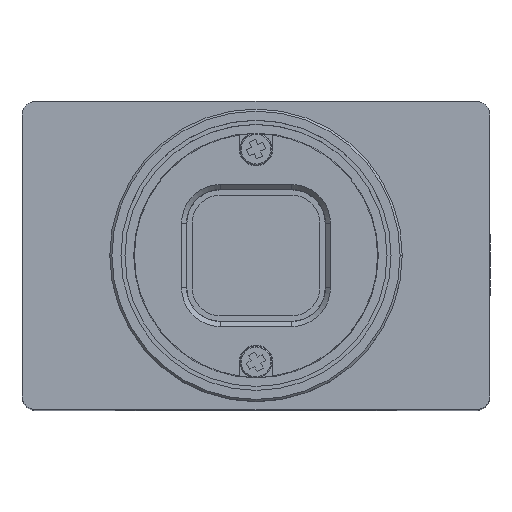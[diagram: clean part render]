
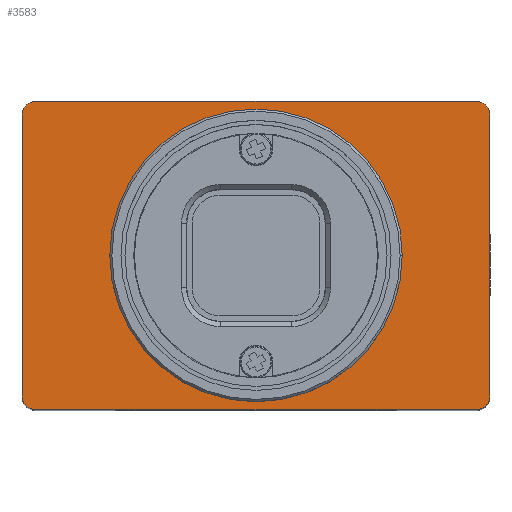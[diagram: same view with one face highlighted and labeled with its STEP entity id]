
A CAD part, top view. The second image highlights one B-rep face of the part: STEP entity #3583.
In plain terms, the highlighted planar face has unit normal (0, 0, 1).
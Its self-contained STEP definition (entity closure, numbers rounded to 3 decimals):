
#1052 = DIRECTION ( 'NONE',  ( 0., -1., 0. ) ) ;
#1066 = CARTESIAN_POINT ( 'NONE',  ( -22., -13.2, 0. ) ) ;
#1116 = ORIENTED_EDGE ( 'NONE', *, *, #11700, .T. ) ;
#1173 = CARTESIAN_POINT ( 'NONE',  ( 20.7, 14.5, 0. ) ) ;
#1494 = DIRECTION ( 'NONE',  ( 0., 1., 0. ) ) ;
#1615 = CARTESIAN_POINT ( 'NONE',  ( 22., -13.2, 0. ) ) ;
#1828 = DIRECTION ( 'NONE',  ( -1., 0., 0. ) ) ;
#1841 = DIRECTION ( 'NONE',  ( 0., 0., 1. ) ) ;
#1859 = CARTESIAN_POINT ( 'NONE',  ( -20.7, -13.2, 0. ) ) ;
#1942 = VERTEX_POINT ( 'NONE', #10193 ) ;
#2018 = CIRCLE ( 'NONE', #10441, 1.3 ) ;
#2089 = DIRECTION ( 'NONE',  ( -1., 0., 0. ) ) ;
#2220 = CARTESIAN_POINT ( 'NONE',  ( -20.7, 13.2, 0. ) ) ;
#2251 = DIRECTION ( 'NONE',  ( 0., 0., 1. ) ) ;
#2451 = VERTEX_POINT ( 'NONE', #11175 ) ;
#3185 = DIRECTION ( 'NONE',  ( -1., 0., 0. ) ) ;
#3241 = CARTESIAN_POINT ( 'NONE',  ( -20.7, 14.5, 0. ) ) ;
#3377 = VERTEX_POINT ( 'NONE', #6413 ) ;
#3583 = ADVANCED_FACE ( 'NONE', ( #5495, #8470 ), #4332, .F. ) ;
#3585 = VECTOR ( 'NONE', #13484, 1000. ) ;
#3895 = EDGE_CURVE ( 'NONE', #5267, #6593, #12211, .T. ) ;
#3943 = EDGE_CURVE ( 'NONE', #12235, #5464, #9103, .T. ) ;
#4013 = VERTEX_POINT ( 'NONE', #1173 ) ;
#4200 = DIRECTION ( 'NONE',  ( -1., 0., 0. ) ) ;
#4209 = DIRECTION ( 'NONE',  ( 0., 0., -1. ) ) ;
#4248 = EDGE_LOOP ( 'NONE', ( #10668, #9737, #9118, #13462, #5684, #8081, #1116, #12550 ) ) ;
#4269 = CARTESIAN_POINT ( 'NONE',  ( -20.7, 13.2, 0. ) ) ;
#4332 = PLANE ( 'NONE',  #11479 ) ;
#4364 = LINE ( 'NONE', #13522, #3585 ) ;
#5267 = VERTEX_POINT ( 'NONE', #9844 ) ;
#5451 = AXIS2_PLACEMENT_3D ( 'NONE', #12429, #12181, #11898 ) ;
#5464 = VERTEX_POINT ( 'NONE', #7809 ) ;
#5495 = FACE_OUTER_BOUND ( 'NONE', #4248, .T. ) ;
#5684 = ORIENTED_EDGE ( 'NONE', *, *, #6847, .T. ) ;
#5927 = LINE ( 'NONE', #1066, #8854 ) ;
#6254 = EDGE_CURVE ( 'NONE', #9170, #5267, #5927, .T. ) ;
#6317 = AXIS2_PLACEMENT_3D ( 'NONE', #6845, #6809, #6792 ) ;
#6413 = CARTESIAN_POINT ( 'NONE',  ( 20.7, -14.5, 0. ) ) ;
#6559 = EDGE_LOOP ( 'NONE', ( #11940, #13706 ) ) ;
#6593 = VERTEX_POINT ( 'NONE', #8298 ) ;
#6609 = AXIS2_PLACEMENT_3D ( 'NONE', #12623, #12597, #12556 ) ;
#6757 = EDGE_CURVE ( 'NONE', #2451, #9170, #2018, .T. ) ;
#6792 = DIRECTION ( 'NONE',  ( -1., 0., 0. ) ) ;
#6809 = DIRECTION ( 'NONE',  ( 0., 0., 1. ) ) ;
#6845 = CARTESIAN_POINT ( 'NONE',  ( 0., 0., 0. ) ) ;
#6847 = EDGE_CURVE ( 'NONE', #3377, #12235, #11768, .T. ) ;
#7243 = CIRCLE ( 'NONE', #6609, 13.75 ) ;
#7537 = CARTESIAN_POINT ( 'NONE',  ( -22., 13.2, 0. ) ) ;
#7673 = EDGE_CURVE ( 'NONE', #4013, #2451, #10268, .T. ) ;
#7809 = CARTESIAN_POINT ( 'NONE',  ( 22., 13.2, 0. ) ) ;
#7936 = CIRCLE ( 'NONE', #5451, 1.3 ) ;
#8081 = ORIENTED_EDGE ( 'NONE', *, *, #3943, .T. ) ;
#8298 = CARTESIAN_POINT ( 'NONE',  ( -20.7, -14.5, 0. ) ) ;
#8470 = FACE_BOUND ( 'NONE', #6559, .T. ) ;
#8854 = VECTOR ( 'NONE', #1052, 1000. ) ;
#9103 = LINE ( 'NONE', #1615, #11556 ) ;
#9118 = ORIENTED_EDGE ( 'NONE', *, *, #3895, .T. ) ;
#9170 = VERTEX_POINT ( 'NONE', #7537 ) ;
#9737 = ORIENTED_EDGE ( 'NONE', *, *, #6254, .T. ) ;
#9844 = CARTESIAN_POINT ( 'NONE',  ( -22., -13.2, 0. ) ) ;
#9866 = CIRCLE ( 'NONE', #6317, 13.75 ) ;
#10193 = CARTESIAN_POINT ( 'NONE',  ( -13.75, 0., 0. ) ) ;
#10226 = AXIS2_PLACEMENT_3D ( 'NONE', #1859, #1841, #1828 ) ;
#10268 = LINE ( 'NONE', #3241, #12740 ) ;
#10271 = AXIS2_PLACEMENT_3D ( 'NONE', #13279, #13276, #13260 ) ;
#10441 = AXIS2_PLACEMENT_3D ( 'NONE', #2220, #2251, #2089 ) ;
#10464 = EDGE_CURVE ( 'NONE', #6593, #3377, #4364, .T. ) ;
#10520 = EDGE_CURVE ( 'NONE', #12854, #1942, #7243, .T. ) ;
#10668 = ORIENTED_EDGE ( 'NONE', *, *, #6757, .T. ) ;
#10801 = EDGE_CURVE ( 'NONE', #1942, #12854, #9866, .T. ) ;
#11175 = CARTESIAN_POINT ( 'NONE',  ( -20.7, 14.5, 0. ) ) ;
#11479 = AXIS2_PLACEMENT_3D ( 'NONE', #4269, #4209, #4200 ) ;
#11556 = VECTOR ( 'NONE', #1494, 1000. ) ;
#11700 = EDGE_CURVE ( 'NONE', #5464, #4013, #7936, .T. ) ;
#11768 = CIRCLE ( 'NONE', #10271, 1.3 ) ;
#11898 = DIRECTION ( 'NONE',  ( -1., 0., 0. ) ) ;
#11940 = ORIENTED_EDGE ( 'NONE', *, *, #10801, .F. ) ;
#12181 = DIRECTION ( 'NONE',  ( 0., 0., 1. ) ) ;
#12211 = CIRCLE ( 'NONE', #10226, 1.3 ) ;
#12235 = VERTEX_POINT ( 'NONE', #13056 ) ;
#12429 = CARTESIAN_POINT ( 'NONE',  ( 20.7, 13.2, 0. ) ) ;
#12550 = ORIENTED_EDGE ( 'NONE', *, *, #7673, .T. ) ;
#12556 = DIRECTION ( 'NONE',  ( -1., 0., 0. ) ) ;
#12597 = DIRECTION ( 'NONE',  ( 0., 0., 1. ) ) ;
#12623 = CARTESIAN_POINT ( 'NONE',  ( 0., 0., 0. ) ) ;
#12740 = VECTOR ( 'NONE', #3185, 1000. ) ;
#12854 = VERTEX_POINT ( 'NONE', #13651 ) ;
#13056 = CARTESIAN_POINT ( 'NONE',  ( 22., -13.2, 0. ) ) ;
#13260 = DIRECTION ( 'NONE',  ( 1., 0., 0. ) ) ;
#13276 = DIRECTION ( 'NONE',  ( 0., 0., 1. ) ) ;
#13279 = CARTESIAN_POINT ( 'NONE',  ( 20.7, -13.2, 0. ) ) ;
#13462 = ORIENTED_EDGE ( 'NONE', *, *, #10464, .T. ) ;
#13484 = DIRECTION ( 'NONE',  ( 1., 0., 0. ) ) ;
#13522 = CARTESIAN_POINT ( 'NONE',  ( -20.7, -14.5, 0. ) ) ;
#13651 = CARTESIAN_POINT ( 'NONE',  ( 13.75, 0., 0. ) ) ;
#13706 = ORIENTED_EDGE ( 'NONE', *, *, #10520, .F. ) ;
